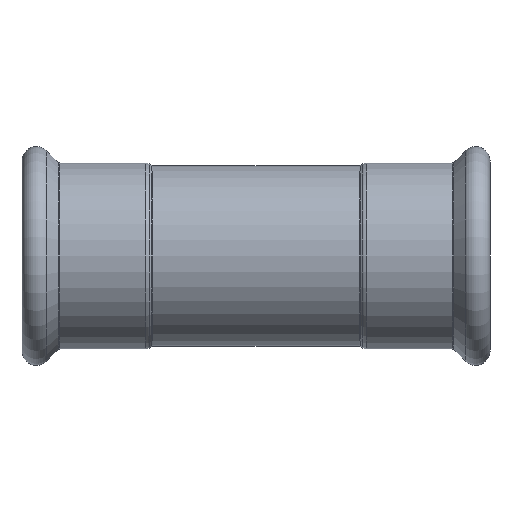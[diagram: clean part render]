
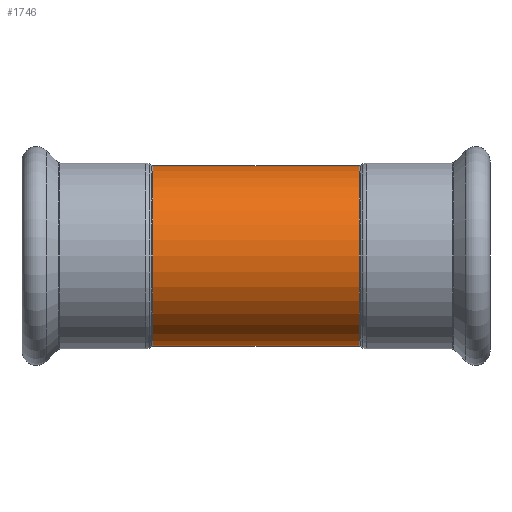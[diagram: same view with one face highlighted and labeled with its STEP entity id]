
A CAD part, front view. The second image highlights one B-rep face of the part: STEP entity #1746.
In plain terms, the highlighted cylindrical face has radius 22 mm (diameter 44 mm), a partial arc.
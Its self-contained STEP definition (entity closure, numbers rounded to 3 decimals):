
#463 = AXIS2_PLACEMENT_3D ( 'NONE', #2949, #1320, #4218 ) ;
#525 = VERTEX_POINT ( 'NONE', #1045 ) ;
#570 = VERTEX_POINT ( 'NONE', #2981 ) ;
#591 = LINE ( 'NONE', #1147, #1692 ) ;
#1045 = CARTESIAN_POINT ( 'NONE',  ( 25.154, 0., 22. ) ) ;
#1065 = DIRECTION ( 'NONE',  ( -1., 0., 0. ) ) ;
#1133 = FACE_OUTER_BOUND ( 'NONE', #3986, .T. ) ;
#1147 = CARTESIAN_POINT ( 'NONE',  ( 27.146, 0., -22. ) ) ;
#1254 = ORIENTED_EDGE ( 'NONE', *, *, #1350, .T. ) ;
#1265 = ORIENTED_EDGE ( 'NONE', *, *, #4236, .F. ) ;
#1317 = DIRECTION ( 'NONE',  ( 0., 0., 1. ) ) ;
#1320 = DIRECTION ( 'NONE',  ( -1., 0., 0. ) ) ;
#1350 = EDGE_CURVE ( 'NONE', #2186, #525, #3283, .T. ) ;
#1403 = DIRECTION ( 'NONE',  ( 0., 0., 1. ) ) ;
#1503 = DIRECTION ( 'NONE',  ( -1., 0., 0. ) ) ;
#1630 = DIRECTION ( 'NONE',  ( -1., 0., 0. ) ) ;
#1692 = VECTOR ( 'NONE', #1503, 1000. ) ;
#1746 = ADVANCED_FACE ( 'NONE', ( #1133 ), #3539, .T. ) ;
#1759 = DIRECTION ( 'NONE',  ( -1., 0., 0. ) ) ;
#1880 = ORIENTED_EDGE ( 'NONE', *, *, #3191, .F. ) ;
#1964 = EDGE_CURVE ( 'NONE', #525, #2609, #3596, .T. ) ;
#2186 = VERTEX_POINT ( 'NONE', #2463 ) ;
#2261 = ORIENTED_EDGE ( 'NONE', *, *, #1964, .T. ) ;
#2463 = CARTESIAN_POINT ( 'NONE',  ( 25.154, 0., -22. ) ) ;
#2503 = AXIS2_PLACEMENT_3D ( 'NONE', #3572, #1630, #1317 ) ;
#2609 = VERTEX_POINT ( 'NONE', #3385 ) ;
#2784 = AXIS2_PLACEMENT_3D ( 'NONE', #3017, #1065, #1403 ) ;
#2949 = CARTESIAN_POINT ( 'NONE',  ( -25.154, 0., 0. ) ) ;
#2961 = VECTOR ( 'NONE', #1759, 1000. ) ;
#2981 = CARTESIAN_POINT ( 'NONE',  ( -25.154, 0., -22. ) ) ;
#3017 = CARTESIAN_POINT ( 'NONE',  ( 25.154, 0., 0. ) ) ;
#3191 = EDGE_CURVE ( 'NONE', #2186, #570, #591, .T. ) ;
#3261 = CIRCLE ( 'NONE', #463, 22. ) ;
#3283 = CIRCLE ( 'NONE', #2784, 22. ) ;
#3385 = CARTESIAN_POINT ( 'NONE',  ( -25.154, 0., 22. ) ) ;
#3400 = CARTESIAN_POINT ( 'NONE',  ( 27.146, 0., 22. ) ) ;
#3539 = CYLINDRICAL_SURFACE ( 'NONE', #2503, 22. ) ;
#3572 = CARTESIAN_POINT ( 'NONE',  ( 27.146, 0., 0. ) ) ;
#3596 = LINE ( 'NONE', #3400, #2961 ) ;
#3986 = EDGE_LOOP ( 'NONE', ( #1880, #1254, #2261, #1265 ) ) ;
#4218 = DIRECTION ( 'NONE',  ( 0., 0., 1. ) ) ;
#4236 = EDGE_CURVE ( 'NONE', #570, #2609, #3261, .T. ) ;
